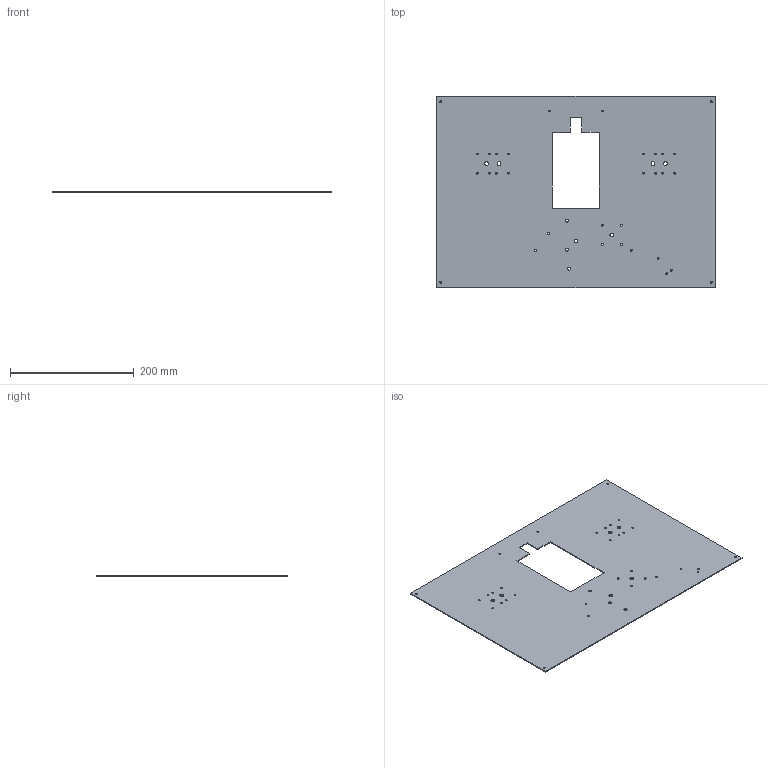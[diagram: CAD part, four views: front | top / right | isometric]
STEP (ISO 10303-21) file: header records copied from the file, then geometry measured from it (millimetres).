
FILE_DESCRIPTION(/* description */ (''),/* implementation_level */ '2;1');
FILE_NAME(/* name */ 'top-plate-ver3-test6.step',/* time_stamp */ '2025-12-14T22:51:33+01:00',/* author */ (''),/* organization */ (''),/* preprocessor_version */ 'ST-DEVELOPER v20.1',/* originating_system */ 'Autodesk Translation Framework v14.21.0.0',/* authorisation */ '');
FILE_SCHEMA (('AUTOMOTIVE_DESIGN { 1 0 10303 214 3 1 1 }'));
Length unit declared in the file: millimetre
Products named in the file (1): top-plate-ver3 zyxx
Bounding box: 450 x 310 x 1.5 mm (x, y, z)
Volume: 193805.6 mm3; surface area: 262050.7 mm2
Topology: 1 solids, 1 shells, 55 faces, 159 edges, 106 vertices
Faces by surface type: cylinder 41, plane 14
Full cylindrical faces by diameter (mm): 3 x32, 5 x3, 6 x6
Entity records: 2056 total; most frequent: DIRECTION 353, CARTESIAN_POINT 321, ORIENTED_EDGE 318, EDGE_CURVE 159, EDGE_LOOP 139, AXIS2_PLACEMENT_3D 138, VERTEX_POINT 106, FACE_BOUND 84
